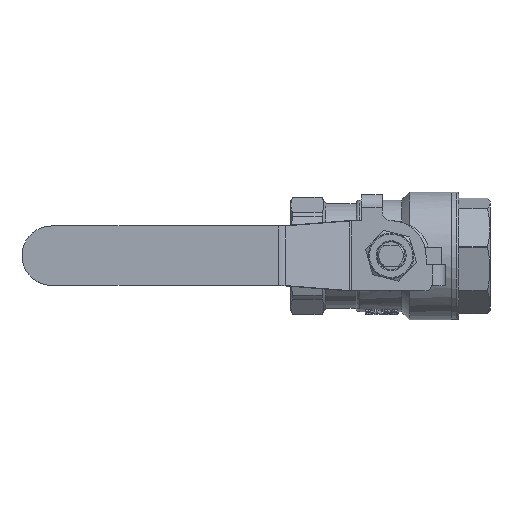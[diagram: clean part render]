
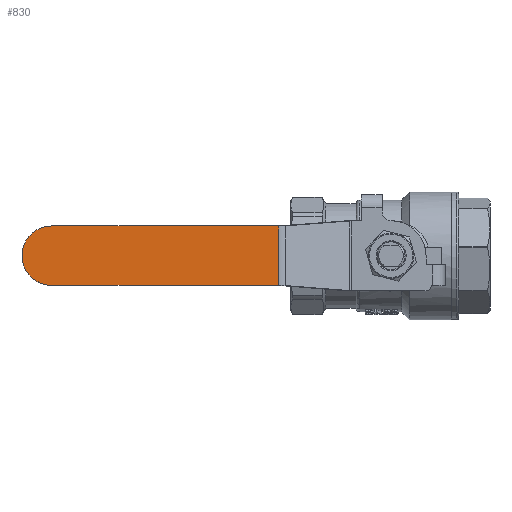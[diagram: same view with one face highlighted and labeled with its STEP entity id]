
A CAD part, top view. The second image highlights one B-rep face of the part: STEP entity #830.
In plain terms, the highlighted planar face has unit normal (0, 0, 1).
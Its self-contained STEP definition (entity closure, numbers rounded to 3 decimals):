
#287=PLANE('',#6811);
#830=ADVANCED_FACE('',(#1325),#287,.T.);
#1325=FACE_OUTER_BOUND('',#1696,.T.);
#1696=EDGE_LOOP('',(#3098,#3099,#3100,#3101,#3102));
#2133=LINE('',#9415,#2499);
#2134=LINE('',#9417,#2500);
#2135=LINE('',#9419,#2501);
#2499=VECTOR('',#7649,1.);
#2500=VECTOR('',#7652,1.);
#2501=VECTOR('',#7653,1.);
#3098=ORIENTED_EDGE('',*,*,#5552,.F.);
#3099=ORIENTED_EDGE('',*,*,#5553,.T.);
#3100=ORIENTED_EDGE('',*,*,#5513,.T.);
#3101=ORIENTED_EDGE('',*,*,#5546,.T.);
#3102=ORIENTED_EDGE('',*,*,#5551,.T.);
#4841=VERTEX_POINT('',#9326);
#4842=VERTEX_POINT('',#9328);
#4868=VERTEX_POINT('',#9404);
#4871=VERTEX_POINT('',#9414);
#4872=VERTEX_POINT('',#9418);
#5513=EDGE_CURVE('',#4842,#4841,#6425,.T.);
#5546=EDGE_CURVE('',#4841,#4868,#6432,.T.);
#5551=EDGE_CURVE('',#4868,#4871,#2133,.T.);
#5552=EDGE_CURVE('',#4872,#4871,#2134,.T.);
#5553=EDGE_CURVE('',#4872,#4842,#2135,.T.);
#6425=CIRCLE('',#6794,8.5);
#6432=CIRCLE('',#6807,8.5);
#6794=AXIS2_PLACEMENT_3D('',#9327,#7591,#7592);
#6807=AXIS2_PLACEMENT_3D('',#9405,#7639,#7640);
#6811=AXIS2_PLACEMENT_3D('',#9420,#7654,#7655);
#7591=DIRECTION('',(0.,0.,1.));
#7592=DIRECTION('',(-1.,0.,0.));
#7639=DIRECTION('',(0.,0.,1.));
#7640=DIRECTION('',(-1.,0.,0.));
#7649=DIRECTION('',(1.,0.,0.));
#7652=DIRECTION('',(0.,-1.,0.));
#7653=DIRECTION('',(-1.,0.,0.));
#7654=DIRECTION('',(0.,0.,1.));
#7655=DIRECTION('',(-1.,0.,0.));
#9326=CARTESIAN_POINT('',(-88.432,0.,50.575));
#9327=CARTESIAN_POINT('',(-79.932,0.,50.575));
#9328=CARTESIAN_POINT('',(-79.932,8.5,50.575));
#9404=CARTESIAN_POINT('',(-79.932,-8.5,50.575));
#9405=CARTESIAN_POINT('',(-79.932,0.,50.575));
#9414=CARTESIAN_POINT('',(-15.035,-8.5,50.575));
#9415=CARTESIAN_POINT('',(-14.449,-8.5,50.575));
#9417=CARTESIAN_POINT('',(-15.035,0.,50.575));
#9418=CARTESIAN_POINT('',(-15.035,8.5,50.575));
#9419=CARTESIAN_POINT('',(-14.449,8.5,50.575));
#9420=CARTESIAN_POINT('',(20.068,0.,50.575));
